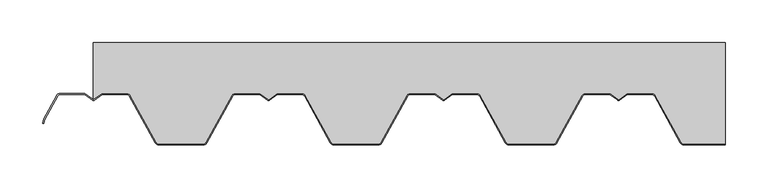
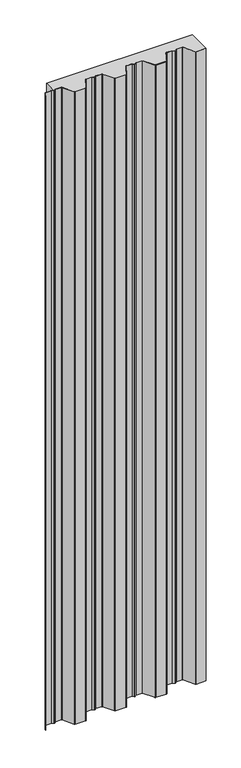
"""IFC4 building model written with IfcOpenShell, lengths in millimetres: plate geometry, HIANSA- H20.F10.001 - FORJADO COLABORANTE - MT-60 - Panel de Muro Cortina : -."""

from ifc_helpers import new_model, si_unit, point, frame_2d, origin, origin_with_axes, place, context, project, spatial, polyline, circle_curve, trimmed, segment, composite_curve, outline, extrude, source, transform, mapped, element, save


def plate_5dbb44cf(model_context):
    return source(origin(), model_context, "Body", "SweptSolid", [
        extrude(outline(composite_curve([segment(trimmed(circle_curve(frame_2d((320.9575119, 4.2)), 3.0), [point((320.9575119, 1.2))], [point((318.3258356, 2.7597639))], False, "CARTESIAN"), True, "CONTINUOUS"), segment(polyline([(318.3258356, 2.7597639), (288.1950558, 57.8163306)]), True, "CONTINUOUS"), segment(trimmed(circle_curve(frame_2d((284.5107091, 55.8)), 4.2), [point((288.1950558, 57.8163306))], [point((284.5107091, 60.0))], True, "CARTESIAN"), True, "CONTINUOUS"), segment(polyline([(284.5107091, 60.0), (255.0000001, 60.0), (245.5734625, 53.4014236)]), True, "CONTINUOUS"), segment(trimmed(circle_curve(frame_2d((245.0000001, 54.2206556)), 1.0), [point((245.5734625, 53.4014236))], [point((244.4265378, 53.4014236))], False, "CARTESIAN"), True, "CONTINUOUS"), segment(polyline([(244.4265378, 53.4014236), (235.0000001, 60.0), (205.4892912, 60.0)]), True, "CONTINUOUS"), segment(trimmed(circle_curve(frame_2d((205.4892912, 55.8)), 4.2), [point((205.4892912, 60.0))], [point((201.8049445, 57.8163306))], True, "CARTESIAN"), True, "CONTINUOUS"), segment(polyline([(201.8049445, 57.8163306), (171.6741646, 2.7597639)]), True, "CONTINUOUS"), segment(trimmed(circle_curve(frame_2d((169.0424884, 4.2)), 3.0), [point((171.6741646, 2.7597639))], [point((169.0424884, 1.2))], False, "CARTESIAN"), True, "CONTINUOUS"), segment(polyline([(169.0424884, 1.2), (115.9575119, 1.2)]), True, "CONTINUOUS"), segment(trimmed(circle_curve(frame_2d((115.9575119, 4.2)), 3.0), [point((115.9575119, 1.2))], [point((113.3258356, 2.7597639))], False, "CARTESIAN"), True, "CONTINUOUS"), segment(polyline([(113.3258356, 2.7597639), (83.1950558, 57.8163306)]), True, "CONTINUOUS"), segment(trimmed(circle_curve(frame_2d((79.5107091, 55.8)), 4.2), [point((83.1950558, 57.8163306))], [point((79.5107091, 60.0))], True, "CARTESIAN"), True, "CONTINUOUS"), segment(polyline([(79.5107091, 60.0), (50.0000001, 60.0), (40.5734625, 53.4014236)]), True, "CONTINUOUS"), segment(trimmed(circle_curve(frame_2d((40.0000001, 54.2206556)), 1.0), [point((40.5734625, 53.4014236))], [point((39.4265378, 53.4014236))], False, "CARTESIAN"), True, "CONTINUOUS"), segment(polyline([(39.4265378, 53.4014236), (30.0000001, 60.0), (0.4892912, 60.0)]), True, "CONTINUOUS"), segment(trimmed(circle_curve(frame_2d((0.4892912, 55.8)), 4.2), [point((0.4892912, 60.0))], [point((-3.1950555, 57.8163306))], True, "CARTESIAN"), True, "CONTINUOUS"), segment(polyline([(-3.1950555, 57.8163306), (-33.3258354, 2.7597639)]), True, "CONTINUOUS"), segment(trimmed(circle_curve(frame_2d((-35.9575116, 4.2)), 3.0), [point((-33.3258354, 2.7597639))], [point((-35.9575116, 1.2))], False, "CARTESIAN"), True, "CONTINUOUS"), segment(polyline([(-35.9575116, 1.2), (-89.0424881, 1.2)]), True, "CONTINUOUS"), segment(trimmed(circle_curve(frame_2d((-89.0424881, 4.2)), 3.0), [point((-89.0424881, 1.2))], [point((-91.6741644, 2.7597639))], False, "CARTESIAN"), True, "CONTINUOUS"), segment(polyline([(-91.6741644, 2.7597639), (-121.8049442, 57.8163306)]), True, "CONTINUOUS"), segment(trimmed(circle_curve(frame_2d((-125.4892909, 55.8)), 4.2), [point((-121.8049442, 57.8163306))], [point((-125.4892909, 60.0))], True, "CARTESIAN"), True, "CONTINUOUS"), segment(polyline([(-125.4892909, 60.0), (-154.9999999, 60.0), (-164.4265375, 53.4014236)]), True, "CONTINUOUS"), segment(trimmed(circle_curve(frame_2d((-164.9999999, 54.2206556)), 1.0), [point((-164.4265375, 53.4014236))], [point((-165.5734622, 53.4014236))], False, "CARTESIAN"), True, "CONTINUOUS"), segment(polyline([(-165.5734622, 53.4014236), (-174.9999999, 60.0), (-204.5107088, 60.0)]), True, "CONTINUOUS"), segment(trimmed(circle_curve(frame_2d((-204.5107088, 55.8)), 4.2), [point((-204.5107088, 60.0))], [point((-208.1950555, 57.8163306))], True, "CARTESIAN"), True, "CONTINUOUS"), segment(polyline([(-208.1950555, 57.8163306), (-238.3258354, 2.7597639)]), True, "CONTINUOUS"), segment(trimmed(circle_curve(frame_2d((-240.9575116, 4.2)), 3.0), [point((-238.3258354, 2.7597639))], [point((-240.9575116, 1.2))], False, "CARTESIAN"), True, "CONTINUOUS"), segment(polyline([(-240.9575116, 1.2), (-294.0424881, 1.2)]), True, "CONTINUOUS"), segment(trimmed(circle_curve(frame_2d((-294.0424881, 4.2)), 3.0), [point((-294.0424881, 1.2))], [point((-296.6741644, 2.7597639))], False, "CARTESIAN"), True, "CONTINUOUS"), segment(polyline([(-296.6741644, 2.7597639), (-326.8049442, 57.8163306)]), True, "CONTINUOUS"), segment(trimmed(circle_curve(frame_2d((-330.4892909, 55.8)), 4.2), [point((-326.8049442, 57.8163306))], [point((-330.4892909, 60.0))], True, "CARTESIAN"), True, "CONTINUOUS"), segment(polyline([(-330.4892909, 60.0), (-359.9999999, 60.0), (-369.9999998, 53.0), (-369.9999998, 120.0), (369.9999998, 120.0), (369.9999998, 1.2), (320.9575119, 1.2)]), True, "CONTINUOUS")], self_intersect=False)), origin_with_axes(), (0.0, 0.0, 1.0), 3390.8509027),
        extrude(outline(composite_curve([segment(trimmed(circle_curve(frame_2d((-409.5107088, 55.8)), 3.0), [point((-409.5107088, 58.8))], [point((-412.142385, 57.2402361))], True, "CARTESIAN"), True, "CONTINUOUS"), segment(polyline([(-412.142385, 57.2402361), (-427.1634426, 29.7929592), (-428.338496, 24.9692365), (-429.5044018, 25.2532499), (-428.2919574, 30.2304669), (-413.1950555, 57.8163306)]), True, "CONTINUOUS"), segment(trimmed(circle_curve(frame_2d((-409.5107088, 55.8)), 4.2), [point((-413.1950555, 57.8163306))], [point((-409.5107088, 60.0))], False, "CARTESIAN"), True, "CONTINUOUS"), segment(polyline([(-409.5107088, 60.0), (-379.9999999, 60.0), (-370.5734622, 53.4014236)]), True, "CONTINUOUS"), segment(trimmed(circle_curve(frame_2d((-369.9999999, 54.2206556)), 1.0), [point((-370.5734622, 53.4014236))], [point((-369.4265375, 53.4014236))], True, "CARTESIAN"), True, "CONTINUOUS"), segment(polyline([(-369.4265375, 53.4014236), (-359.9999999, 60.0), (-330.4892909, 60.0)]), True, "CONTINUOUS"), segment(trimmed(circle_curve(frame_2d((-330.4892909, 55.8)), 4.2), [point((-330.4892909, 60.0))], [point((-326.8049442, 57.8163306))], False, "CARTESIAN"), True, "CONTINUOUS"), segment(polyline([(-326.8049442, 57.8163306), (-296.6741644, 2.7597639)]), True, "CONTINUOUS"), segment(trimmed(circle_curve(frame_2d((-294.0424881, 4.2)), 3.0), [point((-296.6741644, 2.7597639))], [point((-294.0424881, 1.2))], True, "CARTESIAN"), True, "CONTINUOUS"), segment(polyline([(-294.0424881, 1.2), (-240.9575116, 1.2)]), True, "CONTINUOUS"), segment(trimmed(circle_curve(frame_2d((-240.9575116, 4.2)), 3.0), [point((-240.9575116, 1.2))], [point((-238.3258354, 2.7597639))], True, "CARTESIAN"), True, "CONTINUOUS"), segment(polyline([(-238.3258354, 2.7597639), (-208.1950555, 57.8163306)]), True, "CONTINUOUS"), segment(trimmed(circle_curve(frame_2d((-204.5107088, 55.8)), 4.2), [point((-208.1950555, 57.8163306))], [point((-204.5107088, 60.0))], False, "CARTESIAN"), True, "CONTINUOUS"), segment(polyline([(-204.5107088, 60.0), (-174.9999999, 60.0), (-165.5734622, 53.4014236)]), True, "CONTINUOUS"), segment(trimmed(circle_curve(frame_2d((-164.9999999, 54.2206556)), 1.0), [point((-165.5734622, 53.4014236))], [point((-164.4265375, 53.4014236))], True, "CARTESIAN"), True, "CONTINUOUS"), segment(polyline([(-164.4265375, 53.4014236), (-154.9999999, 60.0), (-125.4892909, 60.0)]), True, "CONTINUOUS"), segment(trimmed(circle_curve(frame_2d((-125.4892909, 55.8)), 4.2), [point((-125.4892909, 60.0))], [point((-121.8049442, 57.8163306))], False, "CARTESIAN"), True, "CONTINUOUS"), segment(polyline([(-121.8049442, 57.8163306), (-91.6741644, 2.7597639)]), True, "CONTINUOUS"), segment(trimmed(circle_curve(frame_2d((-89.0424881, 4.2)), 3.0), [point((-91.6741644, 2.7597639))], [point((-89.0424881, 1.2))], True, "CARTESIAN"), True, "CONTINUOUS"), segment(polyline([(-89.0424881, 1.2), (-35.9575116, 1.2)]), True, "CONTINUOUS"), segment(trimmed(circle_curve(frame_2d((-35.9575116, 4.2)), 3.0), [point((-35.9575116, 1.2))], [point((-33.3258354, 2.7597639))], True, "CARTESIAN"), True, "CONTINUOUS"), segment(polyline([(-33.3258354, 2.7597639), (-3.1950555, 57.8163306)]), True, "CONTINUOUS"), segment(trimmed(circle_curve(frame_2d((0.4892912, 55.8)), 4.2), [point((-3.1950555, 57.8163306))], [point((0.4892912, 60.0))], False, "CARTESIAN"), True, "CONTINUOUS"), segment(polyline([(0.4892912, 60.0), (30.0000001, 60.0), (39.4265378, 53.4014236)]), True, "CONTINUOUS"), segment(trimmed(circle_curve(frame_2d((40.0000001, 54.2206556)), 1.0), [point((39.4265378, 53.4014236))], [point((40.5734625, 53.4014236))], True, "CARTESIAN"), True, "CONTINUOUS"), segment(polyline([(40.5734625, 53.4014236), (50.0000001, 60.0), (79.5107091, 60.0)]), True, "CONTINUOUS"), segment(trimmed(circle_curve(frame_2d((79.5107091, 55.8)), 4.2), [point((79.5107091, 60.0))], [point((83.1950558, 57.8163306))], False, "CARTESIAN"), True, "CONTINUOUS"), segment(polyline([(83.1950558, 57.8163306), (113.3258356, 2.7597639)]), True, "CONTINUOUS"), segment(trimmed(circle_curve(frame_2d((115.9575119, 4.2)), 3.0), [point((113.3258356, 2.7597639))], [point((115.9575119, 1.2))], True, "CARTESIAN"), True, "CONTINUOUS"), segment(polyline([(115.9575119, 1.2), (169.0424884, 1.2)]), True, "CONTINUOUS"), segment(trimmed(circle_curve(frame_2d((169.0424884, 4.2)), 3.0), [point((169.0424884, 1.2))], [point((171.6741646, 2.7597639))], True, "CARTESIAN"), True, "CONTINUOUS"), segment(polyline([(171.6741646, 2.7597639), (201.8049445, 57.8163306)]), True, "CONTINUOUS"), segment(trimmed(circle_curve(frame_2d((205.4892912, 55.8)), 4.2), [point((201.8049445, 57.8163306))], [point((205.4892912, 60.0))], False, "CARTESIAN"), True, "CONTINUOUS"), segment(polyline([(205.4892912, 60.0), (235.0000001, 60.0), (244.4265378, 53.4014236)]), True, "CONTINUOUS"), segment(trimmed(circle_curve(frame_2d((245.0000001, 54.2206556)), 1.0), [point((244.4265378, 53.4014236))], [point((245.5734625, 53.4014236))], True, "CARTESIAN"), True, "CONTINUOUS"), segment(polyline([(245.5734625, 53.4014236), (255.0000001, 60.0), (284.5107091, 60.0)]), True, "CONTINUOUS"), segment(trimmed(circle_curve(frame_2d((284.5107091, 55.8)), 4.2), [point((284.5107091, 60.0))], [point((288.1950558, 57.8163306))], False, "CARTESIAN"), True, "CONTINUOUS"), segment(polyline([(288.1950558, 57.8163306), (318.3258356, 2.7597639)]), True, "CONTINUOUS"), segment(trimmed(circle_curve(frame_2d((320.9575119, 4.2)), 3.0), [point((318.3258356, 2.7597639))], [point((320.9575119, 1.2))], True, "CARTESIAN"), True, "CONTINUOUS"), segment(polyline([(320.9575119, 1.2), (369.9999998, 1.2), (369.9999998, 0.0), (320.9575119, 0.0)]), True, "CONTINUOUS"), segment(trimmed(circle_curve(frame_2d((320.9575119, 4.2)), 4.2), [point((320.9575119, 0.0))], [point((317.2731651, 2.1836694))], False, "CARTESIAN"), True, "CONTINUOUS"), segment(polyline([(317.2731651, 2.1836694), (287.1423853, 57.2402361)]), True, "CONTINUOUS"), segment(trimmed(circle_curve(frame_2d((284.5107091, 55.8)), 3.0), [point((287.1423853, 57.2402361))], [point((284.5107091, 58.8))], True, "CARTESIAN"), True, "CONTINUOUS"), segment(polyline([(284.5107091, 58.8), (255.3782668, 58.8), (246.2616173, 52.4183453)]), True, "CONTINUOUS"), segment(trimmed(circle_curve(frame_2d((245.0000002, 54.2206556)), 2.2), [point((246.2616173, 52.4183453))], [point((243.738383, 52.4183453))], False, "CARTESIAN"), True, "CONTINUOUS"), segment(polyline([(243.738383, 52.4183453), (234.6217335, 58.8), (205.4892912, 58.8)]), True, "CONTINUOUS"), segment(trimmed(circle_curve(frame_2d((205.4892912, 55.8)), 3.0), [point((205.4892912, 58.8))], [point((202.857615, 57.2402361))], True, "CARTESIAN"), True, "CONTINUOUS"), segment(polyline([(202.857615, 57.2402361), (172.7268351, 2.1836694)]), True, "CONTINUOUS"), segment(trimmed(circle_curve(frame_2d((169.0424884, 4.2)), 4.2), [point((172.7268351, 2.1836694))], [point((169.0424884, 0.0))], False, "CARTESIAN"), True, "CONTINUOUS"), segment(polyline([(169.0424884, 0.0), (115.9575119, 0.0)]), True, "CONTINUOUS"), segment(trimmed(circle_curve(frame_2d((115.9575119, 4.2)), 4.2), [point((115.9575119, 0.0))], [point((112.2731651, 2.1836694))], False, "CARTESIAN"), True, "CONTINUOUS"), segment(polyline([(112.2731651, 2.1836694), (82.1423853, 57.2402361)]), True, "CONTINUOUS"), segment(trimmed(circle_curve(frame_2d((79.5107091, 55.8)), 3.0), [point((82.1423853, 57.2402361))], [point((79.5107091, 58.8))], True, "CARTESIAN"), True, "CONTINUOUS"), segment(polyline([(79.5107091, 58.8), (50.3782668, 58.8), (41.2616173, 52.4183453)]), True, "CONTINUOUS"), segment(trimmed(circle_curve(frame_2d((40.0000002, 54.2206556)), 2.2), [point((41.2616173, 52.4183453))], [point((38.738383, 52.4183453))], False, "CARTESIAN"), True, "CONTINUOUS"), segment(polyline([(38.738383, 52.4183453), (29.6217335, 58.8), (0.4892912, 58.8)]), True, "CONTINUOUS"), segment(trimmed(circle_curve(frame_2d((0.4892912, 55.8)), 3.0), [point((0.4892912, 58.8))], [point((-2.142385, 57.2402361))], True, "CARTESIAN"), True, "CONTINUOUS"), segment(polyline([(-2.142385, 57.2402361), (-32.2731649, 2.1836694)]), True, "CONTINUOUS"), segment(trimmed(circle_curve(frame_2d((-35.9575116, 4.2)), 4.2), [point((-32.2731649, 2.1836694))], [point((-35.9575116, 0.0))], False, "CARTESIAN"), True, "CONTINUOUS"), segment(polyline([(-35.9575116, 0.0), (-89.0424881, 0.0)]), True, "CONTINUOUS"), segment(trimmed(circle_curve(frame_2d((-89.0424881, 4.2)), 4.2), [point((-89.0424881, 0.0))], [point((-92.7268349, 2.1836694))], False, "CARTESIAN"), True, "CONTINUOUS"), segment(polyline([(-92.7268349, 2.1836694), (-122.8576147, 57.2402361)]), True, "CONTINUOUS"), segment(trimmed(circle_curve(frame_2d((-125.4892909, 55.8)), 3.0), [point((-122.8576147, 57.2402361))], [point((-125.4892909, 58.8))], True, "CARTESIAN"), True, "CONTINUOUS"), segment(polyline([(-125.4892909, 58.8), (-154.6217332, 58.8), (-163.7383827, 52.4183453)]), True, "CONTINUOUS"), segment(trimmed(circle_curve(frame_2d((-164.9999998, 54.2206556)), 2.2), [point((-163.7383827, 52.4183453))], [point((-166.261617, 52.4183453))], False, "CARTESIAN"), True, "CONTINUOUS"), segment(polyline([(-166.261617, 52.4183453), (-175.3782665, 58.8), (-204.5107088, 58.8)]), True, "CONTINUOUS"), segment(trimmed(circle_curve(frame_2d((-204.5107088, 55.8)), 3.0), [point((-204.5107088, 58.8))], [point((-207.142385, 57.2402361))], True, "CARTESIAN"), True, "CONTINUOUS"), segment(polyline([(-207.142385, 57.2402361), (-237.2731649, 2.1836694)]), True, "CONTINUOUS"), segment(trimmed(circle_curve(frame_2d((-240.9575116, 4.2)), 4.2), [point((-237.2731649, 2.1836694))], [point((-240.9575116, 0.0))], False, "CARTESIAN"), True, "CONTINUOUS"), segment(polyline([(-240.9575116, 0.0), (-294.0424881, 0.0)]), True, "CONTINUOUS"), segment(trimmed(circle_curve(frame_2d((-294.0424881, 4.2)), 4.2), [point((-294.0424881, 0.0))], [point((-297.7268349, 2.1836694))], False, "CARTESIAN"), True, "CONTINUOUS"), segment(polyline([(-297.7268349, 2.1836694), (-327.8576147, 57.2402361)]), True, "CONTINUOUS"), segment(trimmed(circle_curve(frame_2d((-330.4892909, 55.8)), 3.0), [point((-327.8576147, 57.2402361))], [point((-330.4892909, 58.8))], True, "CARTESIAN"), True, "CONTINUOUS"), segment(polyline([(-330.4892909, 58.8), (-359.6217332, 58.8), (-368.7383827, 52.4183453)]), True, "CONTINUOUS"), segment(trimmed(circle_curve(frame_2d((-369.9999998, 54.2206556)), 2.2), [point((-368.7383827, 52.4183453))], [point((-371.261617, 52.4183453))], False, "CARTESIAN"), True, "CONTINUOUS"), segment(polyline([(-371.261617, 52.4183453), (-380.3782665, 58.8), (-409.5107088, 58.8)]), True, "CONTINUOUS")], self_intersect=False)), origin_with_axes(), (0.0, 0.0, 1.0), 3390.8509027),
    ])


if __name__ == "__main__":
    model = new_model("IFC4")
    model_context = context("Model", 3, world=origin())
    ifc_project = project(units=[si_unit("LENGTHUNIT", "METRE", prefix="MILLI")], contexts=[model_context])
    site = spatial("IfcSite", under=ifc_project)
    building = spatial("IfcBuilding", under=site)
    placement = place(None, origin())
    plate_shape = plate_5dbb44cf(model_context)
    element("IfcPlate", 1, ObjectType="HIANSA- H20.F10.001 - FORJADO COLABORANTE - MT-60 - Panel de Muro Cortina : -", at=placement, inside=building, context=model_context, shape_type="MappedRepresentation", body=[
        mapped(plate_shape, transform((0.0, 0.0, 0.0), x_axis=(1.0, 0.0, 0.0), y_axis=(0.0, 1.0, 0.0), z_axis=(0.0, 0.0, 1.0))),
    ])
    save(model, "model.ifc")
